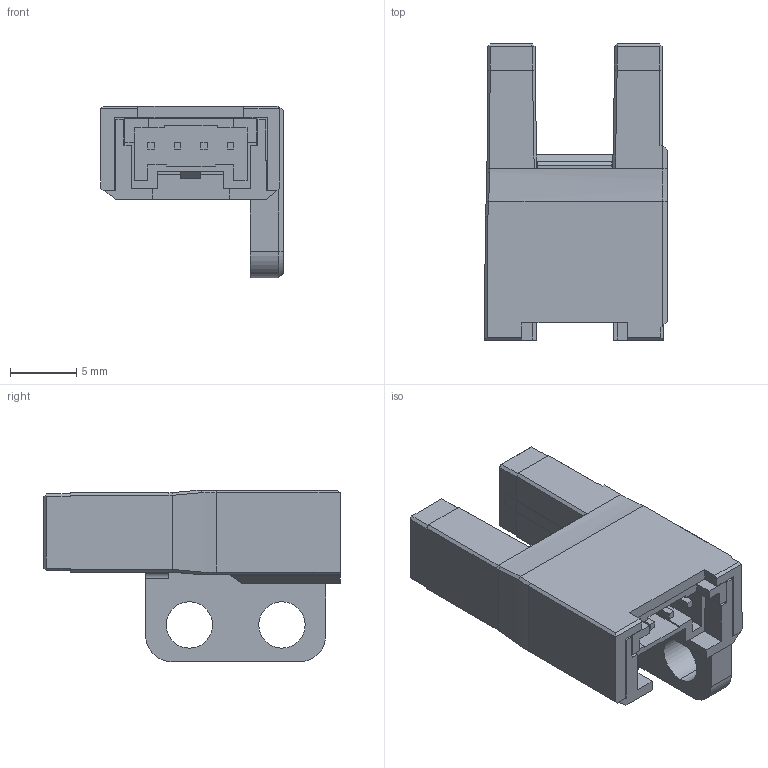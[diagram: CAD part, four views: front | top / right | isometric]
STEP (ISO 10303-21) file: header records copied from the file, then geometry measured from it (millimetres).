
FILE_DESCRIPTION (( 'STEP AP203' ), '1' );
FILE_NAME ('PU-F68W.STEP', '2023-06-28T02:44:26', ( 'Windows User' ), ( 'P R C' ), 'SwSTEP 2.0', 'SolidWorks 2022', '' );
FILE_SCHEMA (( 'CONFIG_CONTROL_DESIGN' ));
Length unit declared in the file: millimetre
Products named in the file (6): SD2008760-PU-F68W壳体-A0; 插件; PU-F68W; SD2008761-F68W插件支架-A0; 插针; SD2008739-PU-68导光柱-A0
Assembly tree (8 placements, depth 2):
  PU-F68W
    SD2008760-PU-F68W壳体-A0
    SD2008739-PU-68导光柱-A0
    SD2008761-F68W插件支架-A0
    插件
    插针  x4
Bounding box: 13.82 x 22.4 x 13 mm (x, y, z)
Volume: 1215.1 mm3; surface area: 2647.8 mm2
Topology: 8 solids, 8 shells, 419 faces, 1128 edges, 738 vertices
Faces by surface type: plane 360, cylinder 50, cone 5, bspline 4
Entity records: 13268 total; most frequent: CARTESIAN_POINT 2355, ORIENTED_EDGE 2184, DIRECTION 1987, EDGE_CURVE 1092, LINE 975, VECTOR 975, VERTEX_POINT 714, AXIS2_PLACEMENT_3D 506
